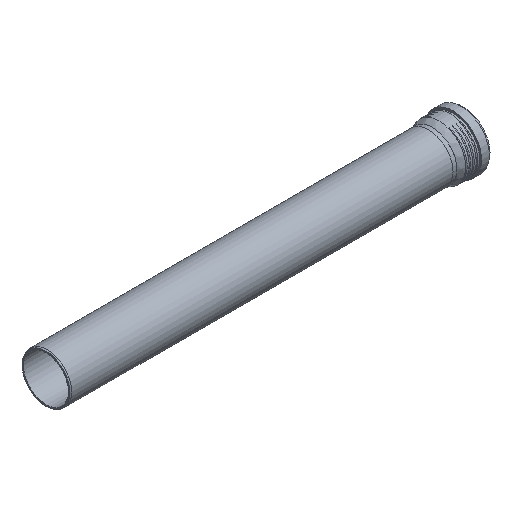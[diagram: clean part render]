
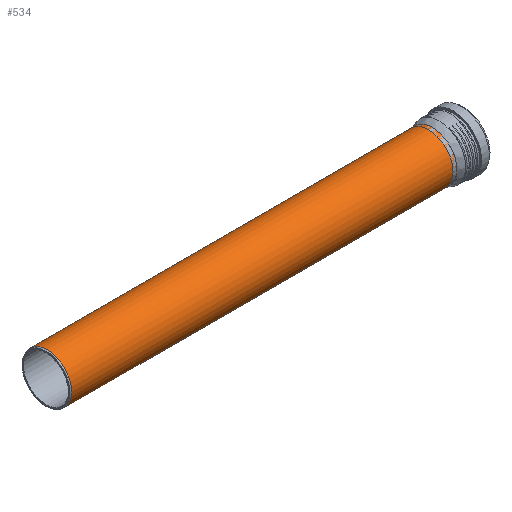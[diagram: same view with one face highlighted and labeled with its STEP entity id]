
A CAD part, isometric view. The second image highlights one B-rep face of the part: STEP entity #534.
In plain terms, the highlighted cylindrical face has radius 62.6 mm (diameter 125.2 mm), a full revolution.
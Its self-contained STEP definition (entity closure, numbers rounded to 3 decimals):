
#66=CYLINDRICAL_SURFACE('',#580,62.6);
#87=FACE_BOUND('',#158,.T.);
#122=FACE_OUTER_BOUND('',#157,.T.);
#157=EDGE_LOOP('',(#370));
#158=EDGE_LOOP('',(#371));
#222=CIRCLE('',#576,62.6);
#225=CIRCLE('',#581,62.6);
#249=VERTEX_POINT('',#771);
#252=VERTEX_POINT('',#779);
#304=EDGE_CURVE('',#249,#249,#222,.T.);
#307=EDGE_CURVE('',#252,#252,#225,.T.);
#370=ORIENTED_EDGE('',*,*,#307,.F.);
#371=ORIENTED_EDGE('',*,*,#304,.F.);
#534=ADVANCED_FACE('',(#122,#87),#66,.T.);
#576=AXIS2_PLACEMENT_3D('',#772,#643,#644);
#580=AXIS2_PLACEMENT_3D('',#778,#651,#652);
#581=AXIS2_PLACEMENT_3D('',#780,#653,#654);
#643=DIRECTION('center_axis',(-1.,0.,0.));
#644=DIRECTION('ref_axis',(0.,1.,0.));
#651=DIRECTION('center_axis',(1.,0.,0.));
#652=DIRECTION('ref_axis',(0.,1.,0.));
#653=DIRECTION('center_axis',(1.,0.,0.));
#654=DIRECTION('ref_axis',(0.,1.,0.));
#771=CARTESIAN_POINT('',(-493.4,-62.6,0.));
#772=CARTESIAN_POINT('Origin',(-493.4,0.,0.));
#778=CARTESIAN_POINT('Origin',(0.,0.,
0.));
#779=CARTESIAN_POINT('',(496.9,-62.6,0.));
#780=CARTESIAN_POINT('Origin',(496.9,0.,0.));
